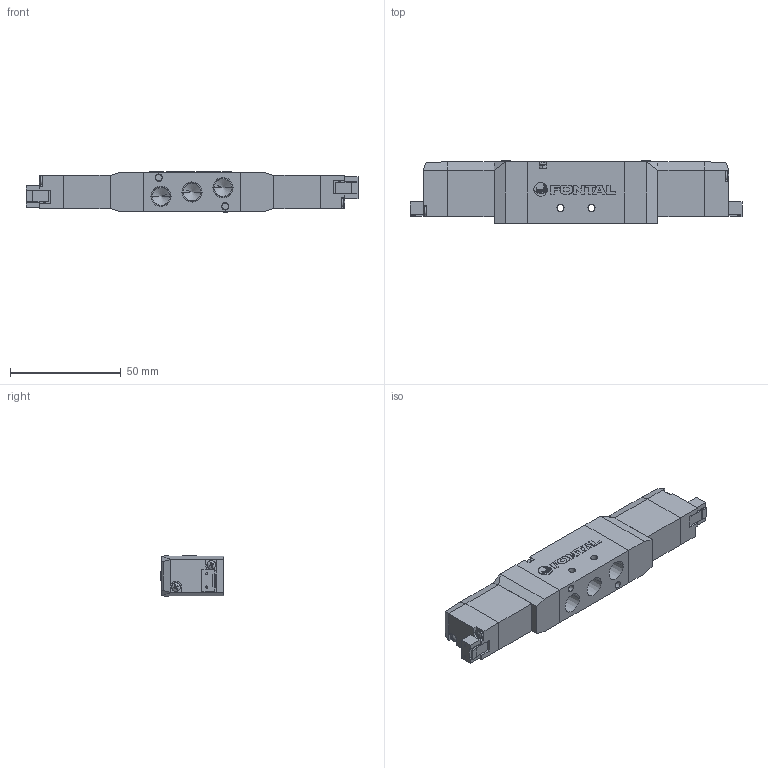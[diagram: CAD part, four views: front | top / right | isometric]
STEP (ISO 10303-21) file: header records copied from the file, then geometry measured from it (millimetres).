
FILE_DESCRIPTION (( 'STEP AP203' ), '1' );
FILE_NAME ('RCD2413-01-#-SP-#.STEP', '2016-02-04T05:20:51', ( 'Sam Lin' ), ( '' ), 'SwSTEP 2.0', 'SolidWorks 2013', '' );
FILE_SCHEMA (( 'CONFIG_CONTROL_DESIGN' ));
Length unit declared in the file: metre
Products named in the file (10): PC13-MARK; ISO 7045 - M3 x 20; PC13-6; PC5-6; PC13-7; PC13-8; PC13-9; ISO 7045 - M2 x 10; PC13-3-3413; RCD2413-01-#-SP-#
Assembly tree (18 placements, depth 2):
  RCD2413-01-#-SP-#
    PC13-3-3413
    PC13-MARK
    ISO 7045 - M3 x 20  x2
    PC13-6  x2
    PC5-6  x2
    PC13-7  x2
    PC13-8  x2
    PC13-9  x2
    ISO 7045 - M2 x 10  x4
Bounding box: 150 x 28.5 x 18.6 mm (x, y, z)
Volume: 56728.1 mm3; surface area: 23194.8 mm2
Topology: 26 solids, 26 shells, 616 faces, 1515 edges, 949 vertices
Faces by surface type: plane 390, cylinder 96, cone 86, bspline 44
Entity records: 11579 total; most frequent: CARTESIAN_POINT 2299, ORIENTED_EDGE 1654, DIRECTION 1629, EDGE_CURVE 827, AXIS2_PLACEMENT_3D 544, VECTOR 541, LINE 541, VERTEX_POINT 534
